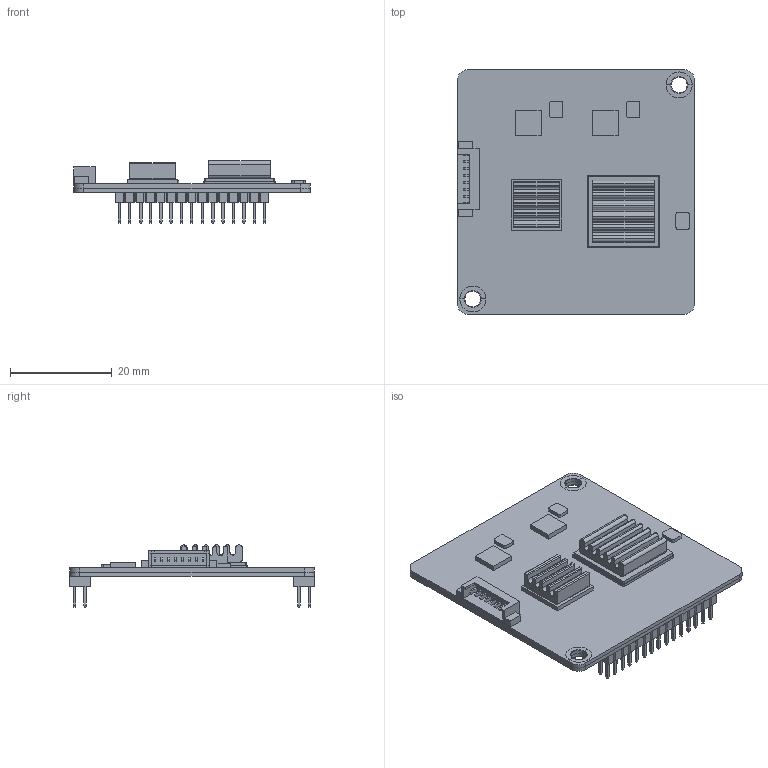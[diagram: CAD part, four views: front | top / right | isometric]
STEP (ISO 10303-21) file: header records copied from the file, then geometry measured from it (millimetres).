
FILE_DESCRIPTION(/* description */ (''),/* implementation_level */ '2;1');
FILE_NAME(/* name */ '3',/* time_stamp */ '2025-03-25T12:17:14+08:00',/* author */ (''),/* organization */ (''),/* preprocessor_version */ 'ST-DEVELOPER v19.2',/* originating_system */ 'Rhino 8.1',/* authorisation */ '');
FILE_SCHEMA (('CONFIG_CONTROL_DESIGN'));
Length unit declared in the file: millimetre
Products named in the file (1): Document
Bounding box: 46.5 x 48 x 12.24 mm (x, y, z)
Volume: 1563.5 mm3; surface area: 8968.8 mm2
Topology: 83 solids, 86 shells, 1080 faces, 2456 edges, 1544 vertices
Faces by surface type: plane 984, cylinder 88, bspline 8
Entity records: 26890 total; most frequent: CARTESIAN_POINT 8071, ORIENTED_EDGE 4900, EDGE_CURVE 2456, B_SPLINE_CURVE_WITH_KNOTS 2252, VERTEX_POINT 1544, DIRECTION 1454, AXIS2_PLACEMENT_3D 1263, EDGE_LOOP 1084
